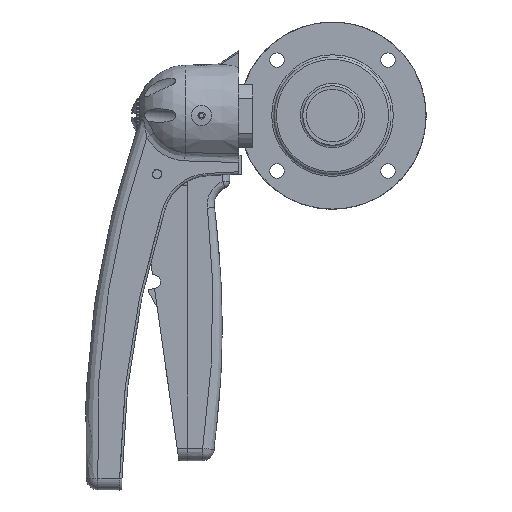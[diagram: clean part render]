
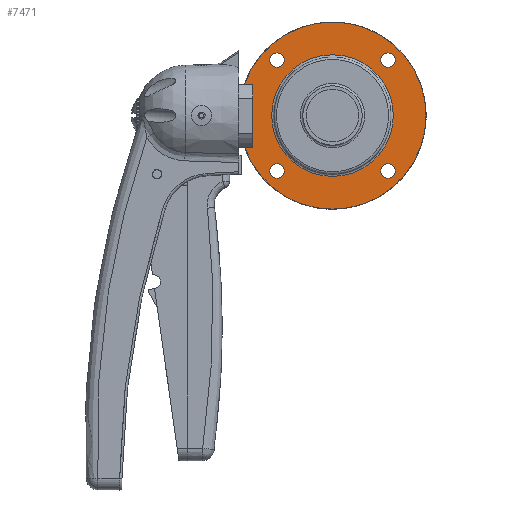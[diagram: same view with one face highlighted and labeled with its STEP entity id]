
A CAD part, top view. The second image highlights one B-rep face of the part: STEP entity #7471.
In plain terms, the highlighted planar face has unit normal (0, 0, 1).
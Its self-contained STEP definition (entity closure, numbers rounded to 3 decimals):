
#567=FACE_BOUND('',#1461,.T.);
#568=FACE_BOUND('',#1462,.T.);
#569=FACE_BOUND('',#1463,.T.);
#570=FACE_BOUND('',#1464,.T.);
#571=FACE_BOUND('',#1465,.T.);
#606=PLANE('',#8010);
#1032=FACE_OUTER_BOUND('',#1460,.T.);
#1460=EDGE_LOOP('',(#5189,#5190));
#1461=EDGE_LOOP('',(#5191,#5192));
#1462=EDGE_LOOP('',(#5193,#5194));
#1463=EDGE_LOOP('',(#5195,#5196));
#1464=EDGE_LOOP('',(#5197,#5198));
#1465=EDGE_LOOP('',(#5199,#5200));
#2969=CIRCLE('',#7964,3.1);
#2970=CIRCLE('',#7965,3.1);
#2972=CIRCLE('',#7968,3.1);
#2973=CIRCLE('',#7969,3.1);
#2975=CIRCLE('',#7972,3.1);
#2976=CIRCLE('',#7973,3.1);
#2978=CIRCLE('',#7976,3.1);
#2979=CIRCLE('',#7977,3.1);
#3001=CIRCLE('',#8008,26.);
#3002=CIRCLE('',#8009,26.);
#3003=CIRCLE('',#8011,40.);
#3004=CIRCLE('',#8012,40.);
#3270=VERTEX_POINT('',#10560);
#3271=VERTEX_POINT('',#10561);
#3273=VERTEX_POINT('',#10568);
#3274=VERTEX_POINT('',#10569);
#3276=VERTEX_POINT('',#10576);
#3277=VERTEX_POINT('',#10577);
#3279=VERTEX_POINT('',#10584);
#3280=VERTEX_POINT('',#10585);
#3301=VERTEX_POINT('',#10661);
#3302=VERTEX_POINT('',#10663);
#3303=VERTEX_POINT('',#10667);
#3304=VERTEX_POINT('',#10668);
#3993=EDGE_CURVE('',#3270,#3271,#2969,.T.);
#3994=EDGE_CURVE('',#3271,#3270,#2970,.T.);
#3997=EDGE_CURVE('',#3273,#3274,#2972,.T.);
#3998=EDGE_CURVE('',#3274,#3273,#2973,.T.);
#4001=EDGE_CURVE('',#3276,#3277,#2975,.T.);
#4002=EDGE_CURVE('',#3277,#3276,#2976,.T.);
#4005=EDGE_CURVE('',#3279,#3280,#2978,.T.);
#4006=EDGE_CURVE('',#3280,#3279,#2979,.T.);
#4035=EDGE_CURVE('',#3302,#3301,#3001,.T.);
#4036=EDGE_CURVE('',#3301,#3302,#3002,.T.);
#4037=EDGE_CURVE('',#3303,#3304,#3003,.T.);
#4038=EDGE_CURVE('',#3304,#3303,#3004,.T.);
#5189=ORIENTED_EDGE('',*,*,#4037,.F.);
#5190=ORIENTED_EDGE('',*,*,#4038,.F.);
#5191=ORIENTED_EDGE('',*,*,#3993,.T.);
#5192=ORIENTED_EDGE('',*,*,#3994,.T.);
#5193=ORIENTED_EDGE('',*,*,#3997,.T.);
#5194=ORIENTED_EDGE('',*,*,#3998,.T.);
#5195=ORIENTED_EDGE('',*,*,#4001,.T.);
#5196=ORIENTED_EDGE('',*,*,#4002,.T.);
#5197=ORIENTED_EDGE('',*,*,#4005,.T.);
#5198=ORIENTED_EDGE('',*,*,#4006,.T.);
#5199=ORIENTED_EDGE('',*,*,#4035,.T.);
#5200=ORIENTED_EDGE('',*,*,#4036,.T.);
#7471=ADVANCED_FACE('',(#1032,#567,#568,#569,#570,#571),#606,.T.);
#7964=AXIS2_PLACEMENT_3D('',#10562,#8655,#8656);
#7965=AXIS2_PLACEMENT_3D('',#10563,#8657,#8658);
#7968=AXIS2_PLACEMENT_3D('',#10570,#8664,#8665);
#7969=AXIS2_PLACEMENT_3D('',#10571,#8666,#8667);
#7972=AXIS2_PLACEMENT_3D('',#10578,#8673,#8674);
#7973=AXIS2_PLACEMENT_3D('',#10579,#8675,#8676);
#7976=AXIS2_PLACEMENT_3D('',#10586,#8682,#8683);
#7977=AXIS2_PLACEMENT_3D('',#10587,#8684,#8685);
#8008=AXIS2_PLACEMENT_3D('',#10664,#8752,#8753);
#8009=AXIS2_PLACEMENT_3D('',#10665,#8754,#8755);
#8010=AXIS2_PLACEMENT_3D('',#10666,#8756,#8757);
#8011=AXIS2_PLACEMENT_3D('',#10669,#8758,#8759);
#8012=AXIS2_PLACEMENT_3D('',#10670,#8760,#8761);
#8655=DIRECTION('center_axis',(0.,0.,-1.));
#8656=DIRECTION('ref_axis',(-1.,0.,0.));
#8657=DIRECTION('center_axis',(0.,0.,-1.));
#8658=DIRECTION('ref_axis',(-1.,0.,0.));
#8664=DIRECTION('center_axis',(0.,0.,-1.));
#8665=DIRECTION('ref_axis',(-1.,0.,0.));
#8666=DIRECTION('center_axis',(0.,0.,-1.));
#8667=DIRECTION('ref_axis',(-1.,0.,0.));
#8673=DIRECTION('center_axis',(0.,0.,-1.));
#8674=DIRECTION('ref_axis',(1.,0.,0.));
#8675=DIRECTION('center_axis',(0.,0.,-1.));
#8676=DIRECTION('ref_axis',(1.,0.,0.));
#8682=DIRECTION('center_axis',(0.,0.,-1.));
#8683=DIRECTION('ref_axis',(1.,0.,0.));
#8684=DIRECTION('center_axis',(0.,0.,-1.));
#8685=DIRECTION('ref_axis',(1.,0.,0.));
#8752=DIRECTION('center_axis',(0.,0.,-1.));
#8753=DIRECTION('ref_axis',(0.,1.,0.));
#8754=DIRECTION('center_axis',(0.,0.,-1.));
#8755=DIRECTION('ref_axis',(0.,1.,0.));
#8756=DIRECTION('center_axis',(0.,0.,1.));
#8757=DIRECTION('ref_axis',(1.,0.,0.));
#8758=DIRECTION('center_axis',(0.,0.,-1.));
#8759=DIRECTION('ref_axis',(0.,1.,0.));
#8760=DIRECTION('center_axis',(0.,0.,-1.));
#8761=DIRECTION('ref_axis',(0.,1.,0.));
#10560=CARTESIAN_POINT('',(20.588,23.688,10.));
#10561=CARTESIAN_POINT('',(26.788,23.688,10.));
#10562=CARTESIAN_POINT('Origin',(23.688,23.688,10.));
#10563=CARTESIAN_POINT('Origin',(23.688,23.688,10.));
#10568=CARTESIAN_POINT('',(20.588,-23.688,10.));
#10569=CARTESIAN_POINT('',(26.788,-23.688,10.));
#10570=CARTESIAN_POINT('Origin',(23.688,-23.688,10.));
#10571=CARTESIAN_POINT('Origin',(23.688,-23.688,10.));
#10576=CARTESIAN_POINT('',(-20.588,23.688,10.));
#10577=CARTESIAN_POINT('',(-26.788,23.688,10.));
#10578=CARTESIAN_POINT('Origin',(-23.688,23.688,10.));
#10579=CARTESIAN_POINT('Origin',(-23.688,23.688,10.));
#10584=CARTESIAN_POINT('',(-20.588,-23.688,10.));
#10585=CARTESIAN_POINT('',(-26.788,-23.688,10.));
#10586=CARTESIAN_POINT('Origin',(-23.688,-23.688,10.));
#10587=CARTESIAN_POINT('Origin',(-23.688,-23.688,10.));
#10661=CARTESIAN_POINT('',(26.,0.,10.));
#10663=CARTESIAN_POINT('',(0.,26.,10.));
#10664=CARTESIAN_POINT('Origin',(0.,0.,10.));
#10665=CARTESIAN_POINT('Origin',(0.,0.,10.));
#10666=CARTESIAN_POINT('Origin',(0.,33.,10.));
#10667=CARTESIAN_POINT('',(0.,40.,10.));
#10668=CARTESIAN_POINT('',(0.,-40.,10.));
#10669=CARTESIAN_POINT('Origin',(0.,0.,10.));
#10670=CARTESIAN_POINT('Origin',(0.,0.,10.));
